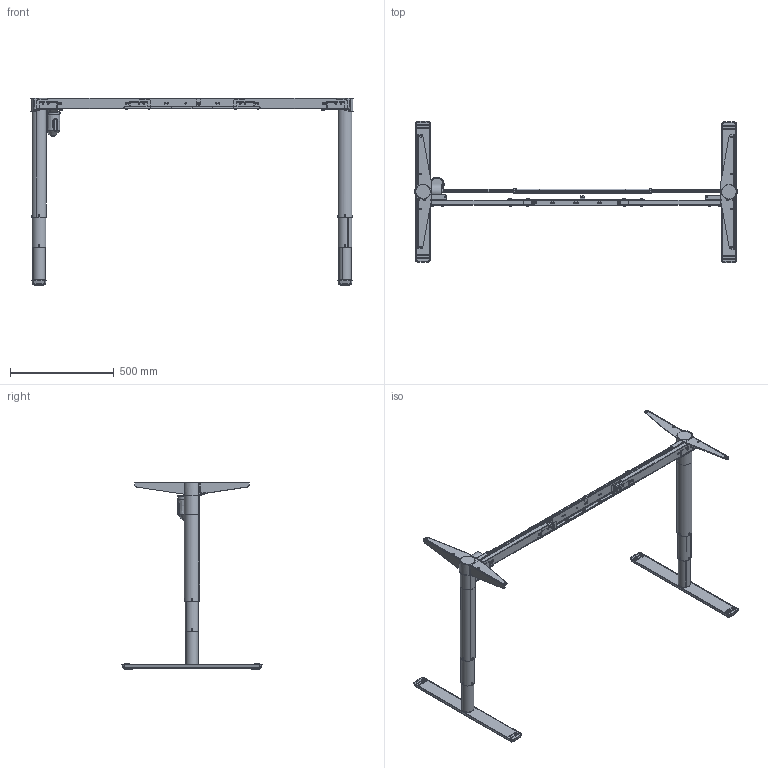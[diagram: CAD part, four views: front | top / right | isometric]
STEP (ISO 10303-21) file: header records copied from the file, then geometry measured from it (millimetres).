
FILE_DESCRIPTION (( 'STEP AP203' ), '1' );
FILE_NAME ('Tech-draw_501-49_XX132-172.STEP', '2019-09-25T06:57:19', ( '' ), ( '' ), 'SwSTEP 2.0', 'SolidWorks 2018', '' );
FILE_SCHEMA (( 'CONFIG_CONTROL_DESIGN' ));
Length unit declared in the file: millimetre
Products named in the file (47): 137820_W5; 300490; 343610_shell view; 343340; 343380; 352590; 138860_shell view; 340760_zinc; 304650_silver; 344210; 344280; 344170; 344630._›65silver; 344630._›72silver; 343330; 138100_silver1; 344220_shell view; 332560; 324420; 138140_silver1; 344430_silver; 139080_silver1; 138160_silver1; 332570; 343600; 340760; 140340_L=152 travers; 138150_silver; 149460; 344290_shell view; Tech-draw_501-49_XX132-172; 324520_silver; 137810; 343090; 344150_shell view; 138110_silver; 346600; 138130_silver; 138090_silver; 340580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
Assembly tree (91 placements, depth 6):
  Tech-draw_501-49_XX132-172
    148950_501-49 XS132-172
      138090_silver
        138100_silver1
          343600
          344170
          138860_shell view
            344150_shell view
            332560
          346600
        138110_silver
          138120_silver1
            343610_shell view
            344210
            344220_shell view
          139080_silver1
            344290_shell view
          344630._›65silver  x4
        324520_silver  x2
        344430_silver
        344630._›72silver  x4
        352590
      138130_silver
        138140_silver1
          344300
          138860_shell view
            344150_shell view
            332560
          344180
        138150_silver
          138160_silver1
            343610_shell view
            344210
            344220_shell view
          139080_silver1
            344290_shell view
          344630._›65silver  x4
        324520_silver  x2
        344630._›72silver  x4
      340760  x4
      332570  x4
      149460
        137820_W5
          343340
          137810  x2
            343330
            340580
        140340_L=152 travers
          344270
          344280  x2
          343090  x2
          343080  x2
          324420  x2
          343380
        344390
        340760_zinc  x4
        304650_silver  x5
        300490  x5
Bounding box: 1551.5 x 680.96 x 902.5 mm (x, y, z)
Volume: 2609501.2 mm3; surface area: 2819277.1 mm2
Topology: 79 solids, 79 shells, 6178 faces, 15726 edges, 9698 vertices
Faces by surface type: plane 2509, cylinder 2126, bspline 669, torus 461, sphere 256, cone 157
Full cylindrical faces by diameter (mm): 2 x2, 2.8 x4, 3.3 x8, 4.6 x4, 5 x8, 5.5 x1, 6 x24, 6.5 x14, 7 x16, 7.6 x4, 8 x24, 8.4 x2, 9 x4, 10 x12, 12 x1, 13.4 x2, 15 x4, 16 x1, 17 x2, 17.2 x2, 20 x1, 23.2 x2, 37.6 x8, 58 x2, 58.35 x2, 60 x1, 65 x2, 66.6 x1, 72 x2
Entity records: 106019 total; most frequent: CARTESIAN_POINT 41883, ORIENTED_EDGE 12268, DIRECTION 11966, EDGE_CURVE 6134, AXIS2_PLACEMENT_3D 4530, VERTEX_POINT 3959, LINE 2906, VECTOR 2906
